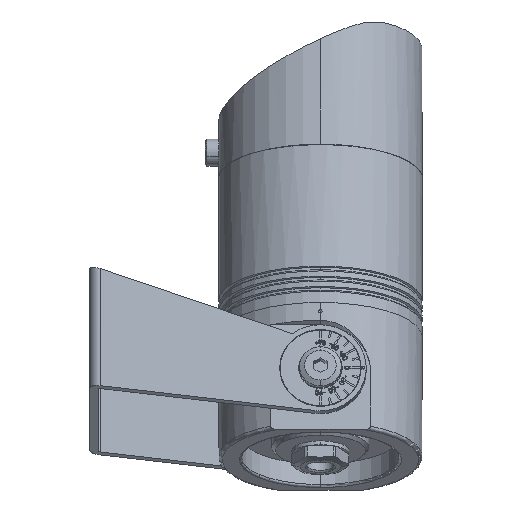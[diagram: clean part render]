
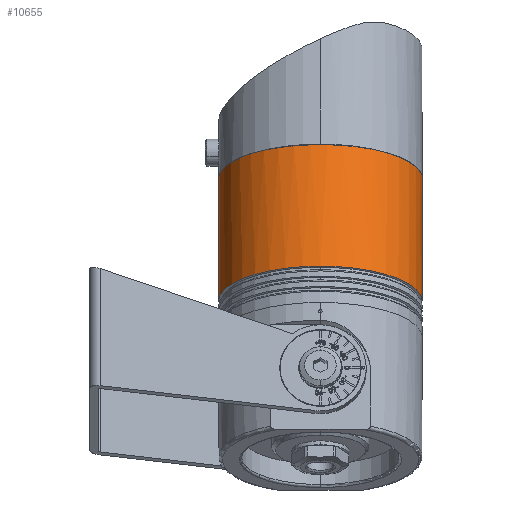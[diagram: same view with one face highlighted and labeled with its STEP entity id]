
A CAD part, front view. The second image highlights one B-rep face of the part: STEP entity #10655.
In plain terms, the highlighted cylindrical face has radius 30 mm (diameter 60 mm), a partial arc.
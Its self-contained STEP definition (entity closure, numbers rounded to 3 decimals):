
#3194=CARTESIAN_POINT('',(-50.042,0.,
-30.));
#3195=CARTESIAN_POINT('',(-50.017,-1.435,
-30.));
#3196=CARTESIAN_POINT('',(-49.968,-4.274,
-29.797));
#3197=CARTESIAN_POINT('',(-49.894,-8.477,
-28.884));
#3198=CARTESIAN_POINT('',(-49.824,-12.503,
-27.382));
#3199=CARTESIAN_POINT('',(-49.759,-16.258,
-25.334));
#3200=CARTESIAN_POINT('',(-49.698,-19.705,
-22.757));
#3201=CARTESIAN_POINT('',(-49.645,-22.746,
-19.717));
#3202=CARTESIAN_POINT('',(-49.6,-25.321,
-16.278));
#3203=CARTESIAN_POINT('',(-49.565,-27.379,
-12.512));
#3204=CARTESIAN_POINT('',(-49.538,-28.881,
-8.488));
#3205=CARTESIAN_POINT('',(-49.522,-29.795,
-4.288));
#3206=CARTESIAN_POINT('',(-49.517,-30.102,
-0.003));
#3207=CARTESIAN_POINT('',(-49.522,-29.796,
4.279));
#3208=CARTESIAN_POINT('',(-49.538,-28.884,
8.475));
#3209=CARTESIAN_POINT('',(-49.564,-27.385,
12.497));
#3210=CARTESIAN_POINT('',(-49.6,-25.331,
16.263));
#3211=CARTESIAN_POINT('',(-49.645,-22.76,
19.7));
#3212=CARTESIAN_POINT('',(-49.698,-19.727,
22.737));
#3213=CARTESIAN_POINT('',(-49.758,-16.287,
25.315));
#3214=CARTESIAN_POINT('',(-49.824,-12.53,
27.37));
#3215=CARTESIAN_POINT('',(-49.894,-8.497,
28.879));
#3216=CARTESIAN_POINT('',(-49.968,-4.282,
29.796));
#3217=CARTESIAN_POINT('',(-50.017,-1.438,
30.));
#3218=CARTESIAN_POINT('',(-50.042,0.,
30.));
#3220=DIRECTION('',(1.,0.,0.));
#3221=VECTOR('',#3220,38.642);
#3222=CARTESIAN_POINT('',(-50.042,0.,
30.));
#3223=LINE('',#3222,#3221);
#3224=DIRECTION('',(-1.,0.,0.));
#3225=VECTOR('',#3224,38.642);
#3226=CARTESIAN_POINT('',(-11.4,0.,-30.));
#3227=LINE('',#3226,#3225);
#3228=CARTESIAN_POINT('',(-50.042,0.,
30.));
#3254=CARTESIAN_POINT('',(-11.4,0.,0.));
#3255=DIRECTION('',(-1.,0.,0.));
#3256=DIRECTION('',(0.,0.,-1.));
#3257=AXIS2_PLACEMENT_3D('',#3254,#3255,#3256);
#6676=CARTESIAN_POINT('',(-50.042,0.,
-30.));
#6677=VERTEX_POINT('',#6676);
#6678=VERTEX_POINT('',#3228);
#6681=CARTESIAN_POINT('',(-11.4,0.,30.));
#6682=VERTEX_POINT('',#6681);
#6683=CARTESIAN_POINT('',(-11.4,0.,-30.));
#6684=VERTEX_POINT('',#6683);
#10641=CARTESIAN_POINT('',(2.642,0.,0.));
#10642=DIRECTION('',(1.,0.,0.));
#10643=DIRECTION('',(0.,0.,-1.));
#10644=AXIS2_PLACEMENT_3D('',#10641,#10642,#10643);
#10645=CYLINDRICAL_SURFACE('',#10644,30.);
#10646=ORIENTED_EDGE('',*,*,#10623,.T.);
#10648=ORIENTED_EDGE('',*,*,#10647,.T.);
#10650=ORIENTED_EDGE('',*,*,#10649,.F.);
#10652=ORIENTED_EDGE('',*,*,#10651,.T.);
#10653=EDGE_LOOP('',(#10646,#10648,#10650,#10652));
#10654=FACE_OUTER_BOUND('',#10653,.F.);
#10655=ADVANCED_FACE('',(#10654),#10645,.T.);
#3219=B_SPLINE_CURVE_WITH_KNOTS('',3,(#3194,#3195,#3196,#3197,#3198,#3199,#3200,
#3201,#3202,#3203,#3204,#3205,#3206,#3207,#3208,#3209,#3210,#3211,#3212,#3213,
#3214,#3215,#3216,#3217,#3218),.UNSPECIFIED.,.F.,.F.,(4,1,1,1,1,1,1,1,1,1,1,1,1,
1,1,1,1,1,1,1,1,1,4),(0.,0.045,0.091,
0.136,0.182,0.227,0.273,
0.318,0.364,0.409,0.455,0.5,
0.545,0.591,0.636,0.682,
0.727,0.773,0.818,0.864,
0.909,0.955,1.),.UNSPECIFIED.);
#3258=CIRCLE('',#3257,30.);
#10623=EDGE_CURVE('',#6677,#6678,#3219,.T.);
#10647=EDGE_CURVE('',#6678,#6682,#3223,.T.);
#10649=EDGE_CURVE('',#6684,#6682,#3258,.T.);
#10651=EDGE_CURVE('',#6684,#6677,#3227,.T.);
